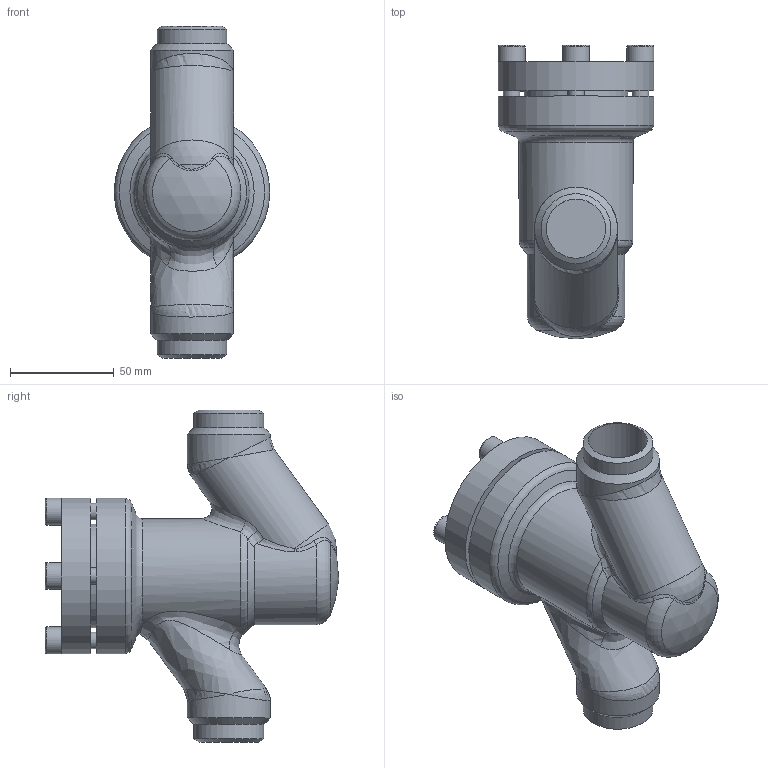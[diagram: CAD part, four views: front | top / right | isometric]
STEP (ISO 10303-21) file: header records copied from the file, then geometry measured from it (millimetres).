
FILE_DESCRIPTION(/* description */ (''),/* implementation_level */ '2;1');
FILE_NAME(/* name */ 'C:\Users\Jacob.Er\Desktop\52G00C12A5AX0000.stp',/* time_stamp */ '2014-12-19T10:59:37+01:00',/* author */ ('Jacob.Er'),/* organization */ (''),/* preprocessor_version */ 'ST-DEVELOPER v15.6',/* originating_system */ 'Autodesk Inventor 2015',/* authorisation */ '');
FILE_SCHEMA (('AUTOMOTIVE_DESIGN { 1 0 10303 214 3 1 1 }'));
Length unit declared in the file: millimetre
Products named in the file (4): 16G00E12.5034004; 52G00E13.5141004; DIN 912 - M8 x 1,25 x 25 x 21,875; 52G00C12A5AX0000
Assembly tree (6 placements, depth 2):
  52G00C12A5AX0000
    16G00E12.5034004
    52G00E13.5141004
    DIN 912 - M8 x 1,25 x 25 x 21,875  x4
Bounding box: 75 x 141.47 x 160 mm (x, y, z)
Volume: 330372.6 mm3; surface area: 82093 mm2
Topology: 6 solids, 6 shells, 153 faces, 348 edges, 209 vertices
Faces by surface type: plane 47, cylinder 40, cone 25, bspline 22, torus 17, sphere 2
Full cylindrical faces by diameter (mm): 6.647 x4, 8 x4, 9 x4, 13 x4, 28.5 x2, 32 x1, 33.7 x2, 36 x2, 40 x4, 43 x3, 48 x1, 50 x2, 75 x2
Entity records: 4041 total; most frequent: CARTESIAN_POINT 1943, DIRECTION 396, ORIENTED_EDGE 350, AXIS2_PLACEMENT_3D 192, EDGE_LOOP 178, EDGE_CURVE 175, VERTEX_POINT 135, FACE_OUTER_BOUND 108
